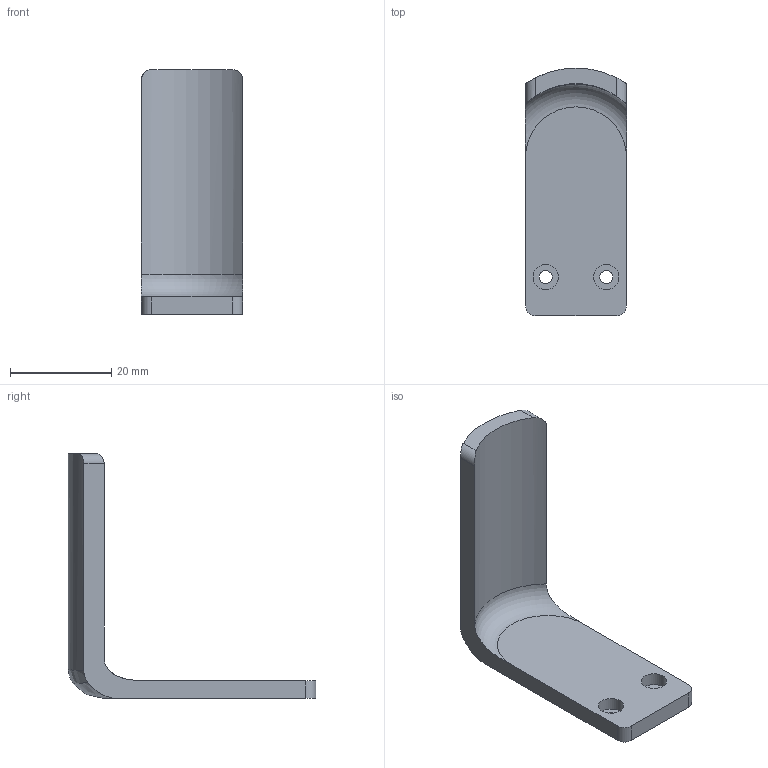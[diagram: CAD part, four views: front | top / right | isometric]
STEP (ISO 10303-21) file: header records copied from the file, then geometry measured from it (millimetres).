
FILE_DESCRIPTION(/* description */ (''),/* implementation_level */ '2;1');
FILE_NAME(/* name */ 'ORA Rounded Jaw Large.step',/* time_stamp */ '2024-09-26T15:32:28-07:00',/* author */ (''),/* organization */ (''),/* preprocessor_version */ 'ST-DEVELOPER v20',/* originating_system */ 'Autodesk Translation Framework v13.20.0.188',/* authorisation */ '');
FILE_SCHEMA (('AUTOMOTIVE_DESIGN { 1 0 10303 214 3 1 1 }'));
Length unit declared in the file: millimetre
Products named in the file (1): Gripper Lite Alternate Jaw
Bounding box: 20 x 49.01 x 48.5 mm (x, y, z)
Volume: 6185.9 mm3; surface area: 4647.9 mm2
Topology: 1 solids, 1 shells, 21 faces, 51 edges, 34 vertices
Faces by surface type: cylinder 10, plane 8, bspline 2, torus 1
Full cylindrical faces by diameter (mm): 2.6 x2, 5 x2
Entity records: 787 total; most frequent: CARTESIAN_POINT 248, ORIENTED_EDGE 102, DIRECTION 96, EDGE_CURVE 51, AXIS2_PLACEMENT_3D 37, VERTEX_POINT 34, EDGE_LOOP 27, LINE 22
